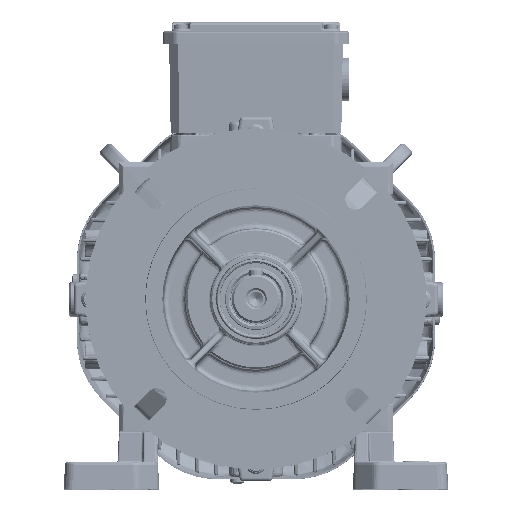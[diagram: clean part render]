
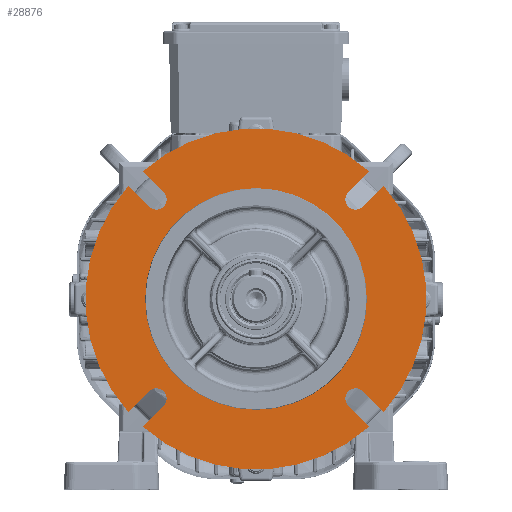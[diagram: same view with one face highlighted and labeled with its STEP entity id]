
A CAD part, top view. The second image highlights one B-rep face of the part: STEP entity #28876.
In plain terms, the highlighted planar face has unit normal (0, 0, 1).
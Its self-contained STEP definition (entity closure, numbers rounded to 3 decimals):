
#28876=ADVANCED_FACE('',(#61972,#61973),#40341,.T.);
#40341=PLANE('',#206784);
#45175=LINE('',#296250,#54691);
#45176=LINE('',#296254,#54692);
#45177=LINE('',#296258,#54693);
#45178=LINE('',#296262,#54694);
#45179=LINE('',#296263,#54695);
#45180=LINE('',#296267,#54696);
#45181=LINE('',#296268,#54697);
#45182=LINE('',#296272,#54698);
#54691=VECTOR('',#237016,1.);
#54692=VECTOR('',#237019,1.);
#54693=VECTOR('',#237022,1.);
#54694=VECTOR('',#237025,1.);
#54695=VECTOR('',#237026,1.);
#54696=VECTOR('',#237029,1.);
#54697=VECTOR('',#237030,1.);
#54698=VECTOR('',#237033,1.);
#61972=FACE_BOUND('',#66216,.T.);
#61973=FACE_BOUND('',#66217,.T.);
#66216=EDGE_LOOP('',(#89779,#89780,#89781,#89782,#89783,#89784,#89785,#89786,
#89787,#89788,#89789,#89790,#89791,#89792,#89793,#89794));
#66217=EDGE_LOOP('',(#89795));
#89779=ORIENTED_EDGE('',*,*,#160181,.F.);
#89780=ORIENTED_EDGE('',*,*,#160182,.F.);
#89781=ORIENTED_EDGE('',*,*,#160183,.F.);
#89782=ORIENTED_EDGE('',*,*,#160184,.T.);
#89783=ORIENTED_EDGE('',*,*,#160185,.F.);
#89784=ORIENTED_EDGE('',*,*,#160186,.F.);
#89785=ORIENTED_EDGE('',*,*,#160187,.F.);
#89786=ORIENTED_EDGE('',*,*,#160177,.T.);
#89787=ORIENTED_EDGE('',*,*,#160188,.F.);
#89788=ORIENTED_EDGE('',*,*,#160189,.F.);
#89789=ORIENTED_EDGE('',*,*,#160190,.F.);
#89790=ORIENTED_EDGE('',*,*,#160171,.T.);
#89791=ORIENTED_EDGE('',*,*,#160191,.F.);
#89792=ORIENTED_EDGE('',*,*,#160192,.F.);
#89793=ORIENTED_EDGE('',*,*,#160193,.F.);
#89794=ORIENTED_EDGE('',*,*,#160165,.T.);
#89795=ORIENTED_EDGE('',*,*,#160194,.T.);
#140699=VERTEX_POINT('',#296180);
#140700=VERTEX_POINT('',#296182);
#140703=VERTEX_POINT('',#296210);
#140704=VERTEX_POINT('',#296212);
#140707=VERTEX_POINT('',#296240);
#140708=VERTEX_POINT('',#296242);
#140711=VERTEX_POINT('',#296251);
#140712=VERTEX_POINT('',#296253);
#140713=VERTEX_POINT('',#296255);
#140714=VERTEX_POINT('',#296257);
#140715=VERTEX_POINT('',#296259);
#140716=VERTEX_POINT('',#296261);
#140717=VERTEX_POINT('',#296264);
#140718=VERTEX_POINT('',#296266);
#140719=VERTEX_POINT('',#296269);
#140720=VERTEX_POINT('',#296271);
#140721=VERTEX_POINT('',#296274);
#160165=EDGE_CURVE('',#140700,#140699,#192940,.T.);
#160171=EDGE_CURVE('',#140704,#140703,#192942,.T.);
#160177=EDGE_CURVE('',#140708,#140707,#192944,.T.);
#160181=EDGE_CURVE('',#140711,#140699,#45175,.T.);
#160182=EDGE_CURVE('',#140712,#140711,#192947,.T.);
#160183=EDGE_CURVE('',#140713,#140712,#45176,.T.);
#160184=EDGE_CURVE('',#140713,#140714,#192948,.T.);
#160185=EDGE_CURVE('',#140715,#140714,#45177,.T.);
#160186=EDGE_CURVE('',#140716,#140715,#192949,.T.);
#160187=EDGE_CURVE('',#140708,#140716,#45178,.T.);
#160188=EDGE_CURVE('',#140717,#140707,#45179,.T.);
#160189=EDGE_CURVE('',#140718,#140717,#192950,.T.);
#160190=EDGE_CURVE('',#140704,#140718,#45180,.T.);
#160191=EDGE_CURVE('',#140719,#140703,#45181,.T.);
#160192=EDGE_CURVE('',#140720,#140719,#192951,.T.);
#160193=EDGE_CURVE('',#140700,#140720,#45182,.T.);
#160194=EDGE_CURVE('',#140721,#140721,#192952,.T.);
#192940=CIRCLE('',#206765,100.);
#192942=CIRCLE('',#206769,100.);
#192944=CIRCLE('',#206773,100.);
#192947=CIRCLE('',#206778,6.);
#192948=CIRCLE('',#206779,100.);
#192949=CIRCLE('',#206780,6.);
#192950=CIRCLE('',#206781,6.);
#192951=CIRCLE('',#206782,6.);
#192952=CIRCLE('',#206783,65.);
#206765=AXIS2_PLACEMENT_3D('',#296181,#236985,#236986);
#206769=AXIS2_PLACEMENT_3D('',#296211,#236995,#236996);
#206773=AXIS2_PLACEMENT_3D('',#296241,#237005,#237006);
#206778=AXIS2_PLACEMENT_3D('',#296252,#237017,#237018);
#206779=AXIS2_PLACEMENT_3D('',#296256,#237020,#237021);
#206780=AXIS2_PLACEMENT_3D('',#296260,#237023,#237024);
#206781=AXIS2_PLACEMENT_3D('',#296265,#237027,#237028);
#206782=AXIS2_PLACEMENT_3D('',#296270,#237031,#237032);
#206783=AXIS2_PLACEMENT_3D('',#296273,#237034,#237035);
#206784=AXIS2_PLACEMENT_3D('',#296275,#237036,#237037);
#236985=DIRECTION('',(0.,0.,1.));
#236986=DIRECTION('',(-1.,0.,0.));
#236995=DIRECTION('',(0.,0.,1.));
#236996=DIRECTION('',(-1.,0.,0.));
#237005=DIRECTION('',(0.,0.,1.));
#237006=DIRECTION('',(-1.,0.,0.));
#237016=DIRECTION('',(-0.707,0.707,0.));
#237017=DIRECTION('',(0.,0.,1.));
#237018=DIRECTION('',(0.,1.,0.));
#237019=DIRECTION('',(0.707,-0.707,0.));
#237020=DIRECTION('',(0.,0.,1.));
#237021=DIRECTION('',(-1.,0.,0.));
#237022=DIRECTION('',(-0.707,-0.707,0.));
#237023=DIRECTION('',(0.,0.,1.));
#237024=DIRECTION('',(-1.,0.,0.));
#237025=DIRECTION('',(0.707,0.707,0.));
#237026=DIRECTION('',(0.707,-0.707,0.));
#237027=DIRECTION('',(0.,0.,1.));
#237028=DIRECTION('',(0.,-1.,0.));
#237029=DIRECTION('',(-0.707,0.707,0.));
#237030=DIRECTION('',(0.707,0.707,0.));
#237031=DIRECTION('',(0.,0.,1.));
#237032=DIRECTION('',(1.,0.,0.));
#237033=DIRECTION('',(-0.707,-0.707,0.));
#237034=DIRECTION('',(0.,0.,-1.));
#237035=DIRECTION('',(-1.,0.,0.));
#237036=DIRECTION('',(0.,0.,1.));
#237037=DIRECTION('',(1.,0.,0.));
#296180=CARTESIAN_POINT('',(-66.341,74.826,60.));
#296181=CARTESIAN_POINT('',(0.,0.,
60.));
#296182=CARTESIAN_POINT('',(66.341,74.826,60.));
#296210=CARTESIAN_POINT('',(74.826,66.341,60.));
#296211=CARTESIAN_POINT('',(0.,0.,
60.));
#296212=CARTESIAN_POINT('',(74.826,-66.341,60.));
#296240=CARTESIAN_POINT('',(66.341,-74.826,60.));
#296241=CARTESIAN_POINT('',(0.,0.,
60.));
#296242=CARTESIAN_POINT('',(-66.341,-74.826,60.));
#296250=CARTESIAN_POINT('',(-54.094,62.579,60.));
#296251=CARTESIAN_POINT('',(-54.094,62.579,60.));
#296252=CARTESIAN_POINT('',(-58.336,58.336,60.));
#296253=CARTESIAN_POINT('',(-62.579,54.094,60.));
#296254=CARTESIAN_POINT('',(-83.792,75.307,60.));
#296255=CARTESIAN_POINT('',(-74.826,66.341,60.));
#296256=CARTESIAN_POINT('',(0.,0.,
60.));
#296257=CARTESIAN_POINT('',(-74.826,-66.341,60.));
#296258=CARTESIAN_POINT('',(-62.579,-54.094,60.));
#296259=CARTESIAN_POINT('',(-62.579,-54.094,60.));
#296260=CARTESIAN_POINT('',(-58.336,-58.336,60.));
#296261=CARTESIAN_POINT('',(-54.094,-62.579,60.));
#296262=CARTESIAN_POINT('',(-75.307,-83.792,60.));
#296263=CARTESIAN_POINT('',(54.094,-62.579,60.));
#296264=CARTESIAN_POINT('',(54.094,-62.579,60.));
#296265=CARTESIAN_POINT('',(58.336,-58.336,60.));
#296266=CARTESIAN_POINT('',(62.579,-54.094,60.));
#296267=CARTESIAN_POINT('',(83.792,-75.307,60.));
#296268=CARTESIAN_POINT('',(62.579,54.094,60.));
#296269=CARTESIAN_POINT('',(62.579,54.094,60.));
#296270=CARTESIAN_POINT('',(58.336,58.336,60.));
#296271=CARTESIAN_POINT('',(54.094,62.579,60.));
#296272=CARTESIAN_POINT('',(75.307,83.792,60.));
#296273=CARTESIAN_POINT('',(0.,0.,
60.));
#296274=CARTESIAN_POINT('',(-65.,0.,60.));
#296275=CARTESIAN_POINT('',(0.,0.,
60.));
